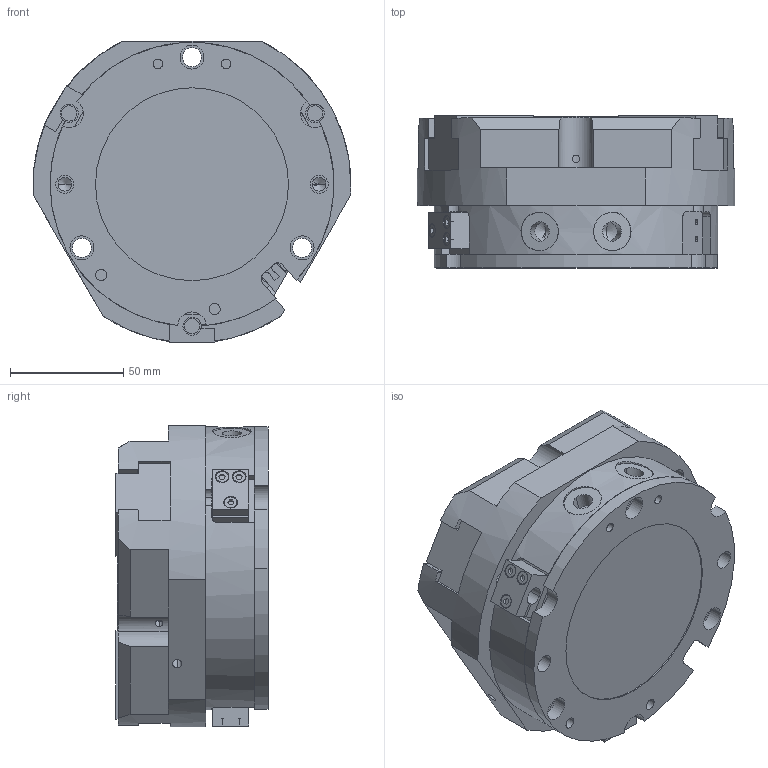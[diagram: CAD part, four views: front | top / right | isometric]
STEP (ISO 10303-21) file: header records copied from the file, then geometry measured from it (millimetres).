
FILE_DESCRIPTION (( 'STEP AP214' ), '1' );
FILE_NAME ('FCT-125A-1.STEP', '2020-07-07T10:55:27', ( '' ), ( '' ), 'SwSTEP 2.0', 'SolidWorks 2016', '' );
FILE_SCHEMA (( 'AUTOMOTIVE_DESIGN' ));
Length unit declared in the file: millimetre
Products named in the file (6): NAUO7; FCT-125A-1; NAUO1; NAUO4; NAUO6; NAUO2
Assembly tree (8 placements, depth 2):
  FCT-125A-1
    NAUO1
    NAUO2  x2
    NAUO4
    NAUO6
    NAUO7  x3
Bounding box: 140 x 67 x 132.82 mm (x, y, z)
Volume: 799897.5 mm3; surface area: 136876.6 mm2
Topology: 8 solids, 8 shells, 497 faces, 1264 edges, 803 vertices
Faces by surface type: plane 238, cylinder 195, cone 64
Entity records: 12140 total; most frequent: CARTESIAN_POINT 2606, DIRECTION 2022, ORIENTED_EDGE 1872, EDGE_CURVE 936, AXIS2_PLACEMENT_3D 747, VERTEX_POINT 615, LINE 528, VECTOR 528
